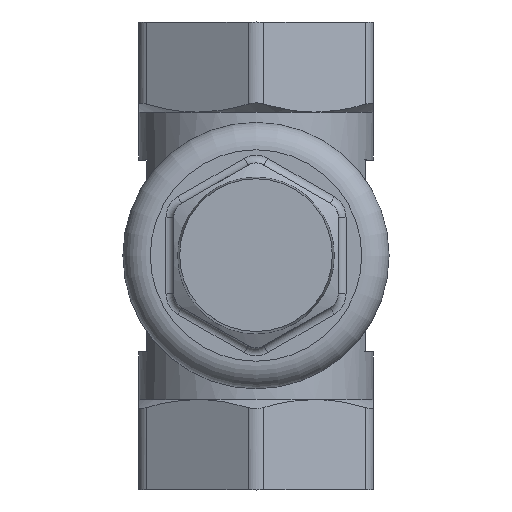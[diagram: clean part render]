
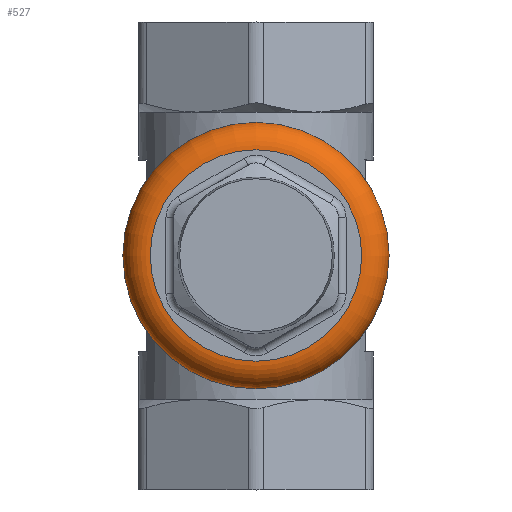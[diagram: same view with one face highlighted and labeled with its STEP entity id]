
A CAD part, top view. The second image highlights one B-rep face of the part: STEP entity #527.
In plain terms, the highlighted toroidal (fillet/blend) face has major radius 13.5 mm and minor radius 3.5 mm.
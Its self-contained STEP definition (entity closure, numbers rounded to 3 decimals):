
#527=ADVANCED_FACE('',(#3792,#3794),#3796,.T.);
#3792=FACE_OUTER_BOUND('',#3793,.T.);
#3793=EDGE_LOOP('',(#7947));
#3794=FACE_OUTER_BOUND('',#3795,.T.);
#3795=EDGE_LOOP('',(#7948));
#3796=TOROIDAL_SURFACE('',#3797,13.5,3.5);
#3797=AXIS2_PLACEMENT_3D('',#3798,#3799,#3800);
#3798=CARTESIAN_POINT('',(0.,0.,32.));
#3799=DIRECTION('',(0.,0.,-1.));
#3800=DIRECTION('',(0.,1.,0.));
#7947=ORIENTED_EDGE('',*,*,#9383,.F.);
#7948=ORIENTED_EDGE('',*,*,#9414,.T.);
#9383=EDGE_CURVE('',#11620,#11620,#11621,.T.);
#9414=EDGE_CURVE('',#11668,#11668,#11669,.T.);
#11620=VERTEX_POINT('',#17874);
#11621=CIRCLE('',#17875,17.);
#11668=VERTEX_POINT('',#17987);
#11669=CIRCLE('',#17988,13.5);
#17874=CARTESIAN_POINT('',(0.,17.,32.));
#17875=AXIS2_PLACEMENT_3D('',#17876,#17877,#17878);
#17876=CARTESIAN_POINT('',(0.,0.,32.));
#17877=DIRECTION('',(0.,0.,-1.));
#17878=DIRECTION('',(0.,1.,0.));
#17987=CARTESIAN_POINT('',(0.,13.5,35.5));
#17988=AXIS2_PLACEMENT_3D('',#17989,#17990,#17991);
#17989=CARTESIAN_POINT('',(0.,0.,35.5));
#17990=DIRECTION('',(0.,0.,-1.));
#17991=DIRECTION('',(0.,1.,0.));
